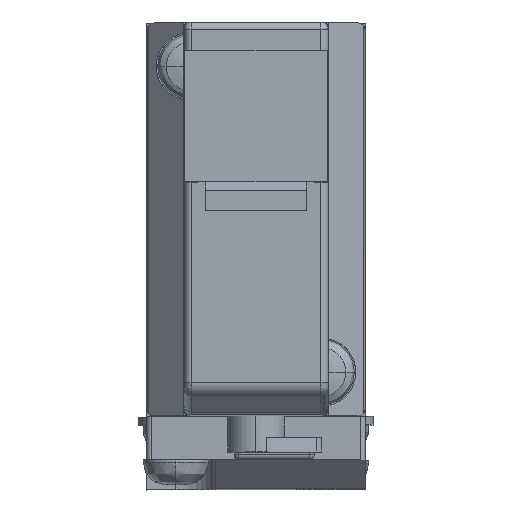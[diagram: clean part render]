
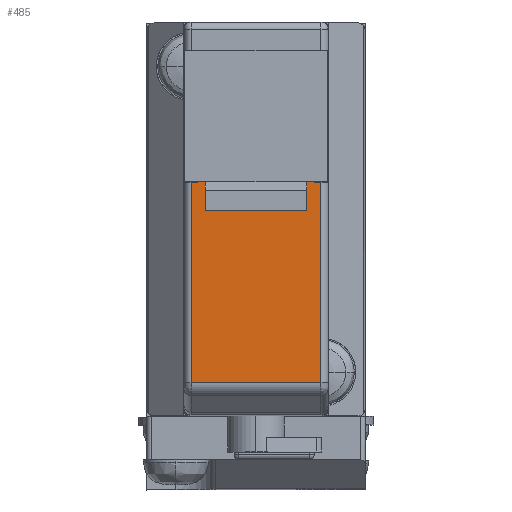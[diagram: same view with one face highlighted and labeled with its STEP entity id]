
A CAD part, top view. The second image highlights one B-rep face of the part: STEP entity #485.
In plain terms, the highlighted planar face has unit normal (0, 0, 1).
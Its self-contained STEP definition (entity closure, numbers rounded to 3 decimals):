
#485=ADVANCED_FACE('',(#2542),#2541,.F.);
#2541=PLANE('',#5424);
#2542=FACE_OUTER_BOUND('',#5425,.T.);
#5421=CARTESIAN_POINT('',(5.34,-26.283,27.4));
#5422=DIRECTION('',(0.,0.,-1.));
#5423=DIRECTION('',(-1.,0.,0.));
#5424=AXIS2_PLACEMENT_3D('',#5421,#5422,#5423);
#5425=EDGE_LOOP('',(#7277,#7278,#7279,#7280,#7281,#7282,#7283,#7284));
#7277=ORIENTED_EDGE('',*,*,#8625,.F.);
#7278=ORIENTED_EDGE('',*,*,#8632,.T.);
#7279=ORIENTED_EDGE('',*,*,#8633,.T.);
#7280=ORIENTED_EDGE('',*,*,#8634,.T.);
#7281=ORIENTED_EDGE('',*,*,#8617,.F.);
#7282=ORIENTED_EDGE('',*,*,#8553,.F.);
#7283=ORIENTED_EDGE('',*,*,#8562,.F.);
#7284=ORIENTED_EDGE('',*,*,#8555,.T.);
#8553=EDGE_CURVE('',#11704,#11689,#11711,.T.);
#8555=EDGE_CURVE('',#11725,#11718,#11726,.T.);
#8562=EDGE_CURVE('',#11725,#11704,#11771,.T.);
#8617=EDGE_CURVE('',#11689,#12141,#12142,.T.);
#8625=EDGE_CURVE('',#12188,#11718,#12195,.T.);
#8632=EDGE_CURVE('',#12188,#12241,#12242,.T.);
#8633=EDGE_CURVE('',#12241,#12248,#12249,.T.);
#8634=EDGE_CURVE('',#12248,#12141,#12255,.T.);
#11689=VERTEX_POINT('',#16527);
#11704=VERTEX_POINT('',#16536);
#11711=LINE('',#16540,#16541);
#11718=VERTEX_POINT('',#16544);
#11725=VERTEX_POINT('',#16548);
#11726=LINE('',#16549,#16550);
#11771=LINE('',#16573,#16574);
#12141=VERTEX_POINT('',#16782);
#12142=LINE('',#16783,#16784);
#12188=VERTEX_POINT('',#16809);
#12195=LINE('',#16814,#16815);
#12241=VERTEX_POINT('',#16839);
#12242=LINE('',#16840,#16841);
#12248=VERTEX_POINT('',#16843);
#12249=LINE('',#16844,#16845);
#12255=LINE('',#16847,#16848);
#16527=CARTESIAN_POINT('',(4.,-11.,27.4));
#16536=CARTESIAN_POINT('',(4.,-9.5,27.4));
#16540=CARTESIAN_POINT('',(4.,-9.5,27.4));
#16541=VECTOR('',#16542,1.5);
#16542=DIRECTION('',(0.,-1.,0.));
#16544=CARTESIAN_POINT('',(-4.,-11.,27.4));
#16548=CARTESIAN_POINT('',(-4.,-9.5,27.4));
#16549=CARTESIAN_POINT('',(-4.,-9.5,27.4));
#16550=VECTOR('',#16551,1.5);
#16551=DIRECTION('',(0.,-1.,0.));
#16573=CARTESIAN_POINT('',(-4.,-9.5,27.4));
#16574=VECTOR('',#16575,8.);
#16575=DIRECTION('',(1.,0.,0.));
#16782=CARTESIAN_POINT('',(4.45,-11.,27.4));
#16783=CARTESIAN_POINT('',(4.,-11.,27.4));
#16784=VECTOR('',#16785,0.45);
#16785=DIRECTION('',(1.,0.,0.));
#16809=CARTESIAN_POINT('',(-4.45,-11.,27.4));
#16814=CARTESIAN_POINT('',(-4.45,-11.,27.4));
#16815=VECTOR('',#16816,0.45);
#16816=DIRECTION('',(1.,0.,0.));
#16839=CARTESIAN_POINT('',(-4.45,-24.758,27.4));
#16840=CARTESIAN_POINT('',(-4.45,-11.,27.4));
#16841=VECTOR('',#16842,13.758);
#16842=DIRECTION('',(0.,-1.,0.));
#16843=CARTESIAN_POINT('',(4.45,-24.758,27.4));
#16844=CARTESIAN_POINT('',(-4.45,-24.758,27.4));
#16845=VECTOR('',#16846,8.9);
#16846=DIRECTION('',(1.,0.,0.));
#16847=CARTESIAN_POINT('',(4.45,-24.758,27.4));
#16848=VECTOR('',#16849,13.758);
#16849=DIRECTION('',(0.,1.,0.));
